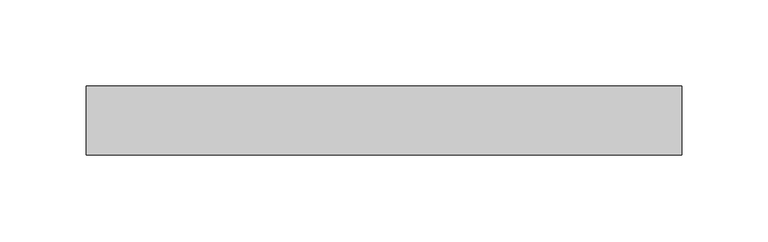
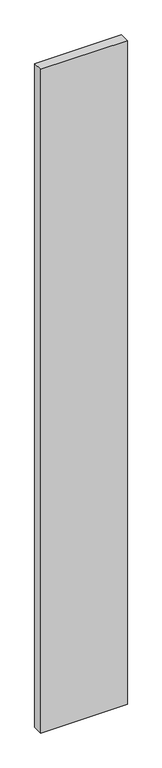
"""IFC4 building model written with IfcOpenShell, lengths in millimetres: plate geometry, Vitré."""

from ifc_helpers import new_model, si_unit, origin, origin_with_axes, place, context, project, spatial, polyline, outline, extrude, source, transform, mapped, element, save


def plate_3c1465ac(model_context):
    return source(origin(), model_context, "Body", "SweptSolid", [
        extrude(outline(polyline([(-172.6765476, -20.0), (-172.6765476, 20.0), (172.6765476, 20.0), (172.6765476, -20.0), (-172.6765476, -20.0)])), origin_with_axes(), (0.0, 0.0, 1.0), 2789.4970552),
    ])


if __name__ == "__main__":
    model = new_model("IFC4")
    model_context = context("Model", 3, world=origin())
    ifc_project = project(units=[si_unit("LENGTHUNIT", "METRE", prefix="MILLI")], contexts=[model_context])
    site = spatial("IfcSite", under=ifc_project)
    building = spatial("IfcBuilding", under=site)
    placement = place(None, origin())
    plate_shape = plate_3c1465ac(model_context)
    element("IfcPlate", 1, ObjectType="Vitré", at=placement, inside=building, context=model_context, shape_type="MappedRepresentation", body=[
        mapped(plate_shape, transform((0.0, 0.0, 0.0), x_axis=(1.0, 0.0, 0.0), y_axis=(0.0, 1.0, 0.0), z_axis=(0.0, 0.0, 1.0))),
    ])
    save(model, "model.ifc")
